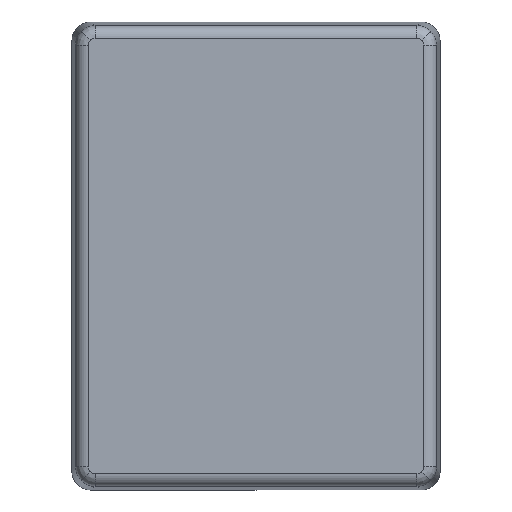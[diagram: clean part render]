
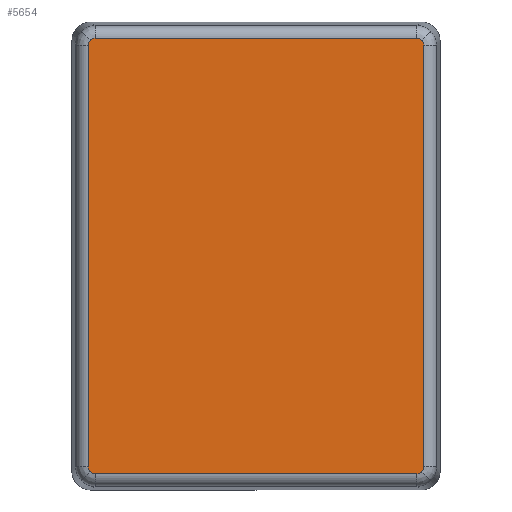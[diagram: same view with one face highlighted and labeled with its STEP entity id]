
A CAD part, front view. The second image highlights one B-rep face of the part: STEP entity #5654.
In plain terms, the highlighted planar face has unit normal (0, -1, 0).
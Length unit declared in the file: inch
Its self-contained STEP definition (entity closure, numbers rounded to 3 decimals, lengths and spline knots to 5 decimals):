
#225 = CARTESIAN_POINT ( 'NONE',  ( 1.66146, -1.184, -2.16146 ) ) ;
#285 = CARTESIAN_POINT ( 'NONE',  ( 1.68194, -1.184, -2.11199 ) ) ;
#286 = CARTESIAN_POINT ( 'NONE',  ( 1.67475, -1.184, -2.14817 ) ) ;
#287 = CARTESIAN_POINT ( 'NONE',  ( 1.68194, -1.184, -2.13079 ) ) ;
#430 = EDGE_CURVE ( 'NONE', #4210, #4229, #5224, .T. ) ;
#463 = EDGE_CURVE ( 'NONE', #4209, #4149, #1178, .T. ) ;
#496 = EDGE_CURVE ( 'NONE', #4165, #4223, #1207, .T. ) ;
#497 = EDGE_CURVE ( 'NONE', #4149, #4153, #5244, .T. ) ;
#502 = EDGE_CURVE ( 'NONE', #4153, #5866, #5225, .T. ) ;
#527 = EDGE_CURVE ( 'NONE', #4223, #4194, #5230, .T. ) ;
#537 = EDGE_CURVE ( 'NONE', #4230, #4165, #5226, .T. ) ;
#541 = EDGE_CURVE ( 'NONE', #4194, #4209, #5250, .T. ) ;
#563 = EDGE_CURVE ( 'NONE', #5847, #4210, #5245, .T. ) ;
#565 = EDGE_CURVE ( 'NONE', #5866, #5847, #1283, .T. ) ;
#566 = EDGE_CURVE ( 'NONE', #5877, #4230, #5221, .T. ) ;
#568 = EDGE_CURVE ( 'NONE', #4229, #5877, #1288, .T. ) ;
#1053 = AXIS2_PLACEMENT_3D ( 'NONE', #2634, #2640, #2641 ) ;
#1178 = LINE ( 'NONE', #1387, #1179 ) ;
#1179 = VECTOR ( 'NONE', #1388, 39.37008 ) ;
#1194 = VECTOR ( 'NONE', #1509, 39.37008 ) ;
#1207 = LINE ( 'NONE', #1508, #1194 ) ;
#1283 = LINE ( 'NONE', #1751, #1284 ) ;
#1284 = VECTOR ( 'NONE', #1752, 39.37008 ) ;
#1288 = LINE ( 'NONE', #1759, #1289 ) ;
#1289 = VECTOR ( 'NONE', #1760, 39.37008 ) ;
#1387 = CARTESIAN_POINT ( 'NONE',  ( -1.68194, -1.184, -2.10777 ) ) ;
#1388 = DIRECTION ( 'NONE',  ( 0., 0., -1. ) ) ;
#1505 = CARTESIAN_POINT ( 'NONE',  ( -1.68194, -1.184, -2.11199 ) ) ;
#1508 = CARTESIAN_POINT ( 'NONE',  ( -1.60777, -1.184, 2.18194 ) ) ;
#1509 = DIRECTION ( 'NONE',  ( -1., 0., 0. ) ) ;
#1510 = CARTESIAN_POINT ( 'NONE',  ( -1.68194, -1.184, -2.13079 ) ) ;
#1511 = CARTESIAN_POINT ( 'NONE',  ( -1.67475, -1.184, -2.14817 ) ) ;
#1512 = CARTESIAN_POINT ( 'NONE',  ( -1.66146, -1.184, -2.16146 ) ) ;
#1532 = CARTESIAN_POINT ( 'NONE',  ( -1.66146, -1.184, -2.16146 ) ) ;
#1539 = CARTESIAN_POINT ( 'NONE',  ( -1.64817, -1.184, -2.17475 ) ) ;
#1540 = CARTESIAN_POINT ( 'NONE',  ( -1.63079, -1.184, -2.18194 ) ) ;
#1541 = CARTESIAN_POINT ( 'NONE',  ( -1.61199, -1.184, -2.18194 ) ) ;
#1613 = CARTESIAN_POINT ( 'NONE',  ( -1.61199, -1.184, 2.18194 ) ) ;
#1639 = CARTESIAN_POINT ( 'NONE',  ( -1.63079, -1.184, 2.18194 ) ) ;
#1640 = CARTESIAN_POINT ( 'NONE',  ( -1.64817, -1.184, 2.17475 ) ) ;
#1641 = CARTESIAN_POINT ( 'NONE',  ( -1.66146, -1.184, 2.16146 ) ) ;
#1651 = CARTESIAN_POINT ( 'NONE',  ( 1.66146, -1.184, 2.16146 ) ) ;
#1668 = CARTESIAN_POINT ( 'NONE',  ( 1.64817, -1.184, 2.17475 ) ) ;
#1669 = CARTESIAN_POINT ( 'NONE',  ( 1.63079, -1.184, 2.18194 ) ) ;
#1670 = CARTESIAN_POINT ( 'NONE',  ( 1.61199, -1.184, 2.18194 ) ) ;
#1679 = CARTESIAN_POINT ( 'NONE',  ( -1.66146, -1.184, 2.16146 ) ) ;
#1683 = CARTESIAN_POINT ( 'NONE',  ( -1.67475, -1.184, 2.14817 ) ) ;
#1684 = CARTESIAN_POINT ( 'NONE',  ( -1.68194, -1.184, 2.13079 ) ) ;
#1685 = CARTESIAN_POINT ( 'NONE',  ( -1.68194, -1.184, 2.11199 ) ) ;
#1731 = CARTESIAN_POINT ( 'NONE',  ( 1.68194, -1.184, 2.11199 ) ) ;
#1736 = CARTESIAN_POINT ( 'NONE',  ( 1.61199, -1.184, -2.18194 ) ) ;
#1746 = CARTESIAN_POINT ( 'NONE',  ( 1.63079, -1.184, -2.18194 ) ) ;
#1747 = CARTESIAN_POINT ( 'NONE',  ( 1.64817, -1.184, -2.17475 ) ) ;
#1748 = CARTESIAN_POINT ( 'NONE',  ( 1.66146, -1.184, -2.16146 ) ) ;
#1751 = CARTESIAN_POINT ( 'NONE',  ( 1.60777, -1.184, -2.18194 ) ) ;
#1752 = DIRECTION ( 'NONE',  ( 1., 0., 0. ) ) ;
#1754 = CARTESIAN_POINT ( 'NONE',  ( 1.68194, -1.184, 2.13079 ) ) ;
#1755 = CARTESIAN_POINT ( 'NONE',  ( 1.67475, -1.184, 2.14817 ) ) ;
#1756 = CARTESIAN_POINT ( 'NONE',  ( 1.66146, -1.184, 2.16146 ) ) ;
#1759 = CARTESIAN_POINT ( 'NONE',  ( 1.68194, -1.184, 2.10777 ) ) ;
#1760 = DIRECTION ( 'NONE',  ( 0., 0., 1. ) ) ;
#1949 = CARTESIAN_POINT ( 'NONE',  ( -1.68194, -1.184, -2.11199 ) ) ;
#1951 = CARTESIAN_POINT ( 'NONE',  ( -1.66146, -1.184, -2.16146 ) ) ;
#1962 = CARTESIAN_POINT ( 'NONE',  ( 1.61199, -1.184, 2.18194 ) ) ;
#1976 = CARTESIAN_POINT ( 'NONE',  ( -1.66146, -1.184, 2.16146 ) ) ;
#1990 = CARTESIAN_POINT ( 'NONE',  ( -1.68194, -1.184, 2.11199 ) ) ;
#1991 = CARTESIAN_POINT ( 'NONE',  ( 1.66146, -1.184, -2.16146 ) ) ;
#2004 = CARTESIAN_POINT ( 'NONE',  ( -1.61199, -1.184, 2.18194 ) ) ;
#2010 = CARTESIAN_POINT ( 'NONE',  ( 1.68194, -1.184, -2.11199 ) ) ;
#2011 = CARTESIAN_POINT ( 'NONE',  ( 1.66146, -1.184, 2.16146 ) ) ;
#2405 = FACE_OUTER_BOUND ( 'NONE', #5329, .T. ) ;
#2631 = PLANE ( 'NONE',  #1053 ) ;
#2634 = CARTESIAN_POINT ( 'NONE',  ( 1.844, -1.184, -2.344 ) ) ;
#2640 = DIRECTION ( 'NONE',  ( 0., 1., 0. ) ) ;
#2641 = DIRECTION ( 'NONE',  ( 0., 0., 1. ) ) ;
#3948 = CARTESIAN_POINT ( 'NONE',  ( 1.61199, -1.184, -2.18194 ) ) ;
#3965 = CARTESIAN_POINT ( 'NONE',  ( -1.61199, -1.184, -2.18194 ) ) ;
#3976 = CARTESIAN_POINT ( 'NONE',  ( 1.68194, -1.184, 2.11199 ) ) ;
#4149 = VERTEX_POINT ( 'NONE', #1949 ) ;
#4153 = VERTEX_POINT ( 'NONE', #1951 ) ;
#4165 = VERTEX_POINT ( 'NONE', #1962 ) ;
#4194 = VERTEX_POINT ( 'NONE', #1976 ) ;
#4209 = VERTEX_POINT ( 'NONE', #1990 ) ;
#4210 = VERTEX_POINT ( 'NONE', #1991 ) ;
#4223 = VERTEX_POINT ( 'NONE', #2004 ) ;
#4229 = VERTEX_POINT ( 'NONE', #2010 ) ;
#4230 = VERTEX_POINT ( 'NONE', #2011 ) ;
#4259 = ORIENTED_EDGE ( 'NONE', *, *, #565, .T. ) ;
#4261 = ORIENTED_EDGE ( 'NONE', *, *, #537, .T. ) ;
#4264 = ORIENTED_EDGE ( 'NONE', *, *, #497, .T. ) ;
#4267 = ORIENTED_EDGE ( 'NONE', *, *, #563, .T. ) ;
#4276 = ORIENTED_EDGE ( 'NONE', *, *, #566, .T. ) ;
#4282 = ORIENTED_EDGE ( 'NONE', *, *, #568, .T. ) ;
#4283 = ORIENTED_EDGE ( 'NONE', *, *, #430, .T. ) ;
#4289 = ORIENTED_EDGE ( 'NONE', *, *, #502, .T. ) ;
#4290 = ORIENTED_EDGE ( 'NONE', *, *, #527, .T. ) ;
#4299 = ORIENTED_EDGE ( 'NONE', *, *, #496, .T. ) ;
#4304 = ORIENTED_EDGE ( 'NONE', *, *, #541, .T. ) ;
#4316 = ORIENTED_EDGE ( 'NONE', *, *, #463, .T. ) ;
#5221 =( BOUNDED_CURVE ( )  B_SPLINE_CURVE ( 3, ( #1731, #1754, #1755, #1756 ),
 .UNSPECIFIED., .F., .F. ) 
 B_SPLINE_CURVE_WITH_KNOTS ( ( 4, 4 ),
 ( 5.4984, 6.28319 ),
 .UNSPECIFIED. ) 
 CURVE ( )  GEOMETRIC_REPRESENTATION_ITEM ( )  RATIONAL_B_SPLINE_CURVE ( ( 1., 0.949, 0.949, 1. ) ) 
 REPRESENTATION_ITEM ( '' )  );
#5224 =( BOUNDED_CURVE ( )  B_SPLINE_CURVE ( 3, ( #225, #286, #287, #285 ),
 .UNSPECIFIED., .F., .T. ) 
 B_SPLINE_CURVE_WITH_KNOTS ( ( 4, 4 ),
 ( 0., 0.78479 ),
 .UNSPECIFIED. ) 
 CURVE ( )  GEOMETRIC_REPRESENTATION_ITEM ( )  RATIONAL_B_SPLINE_CURVE ( ( 1., 0.949, 0.949, 1. ) ) 
 REPRESENTATION_ITEM ( '' )  );
#5225 =( BOUNDED_CURVE ( )  B_SPLINE_CURVE ( 3, ( #1532, #1539, #1540, #1541 ),
 .UNSPECIFIED., .F., .T. ) 
 B_SPLINE_CURVE_WITH_KNOTS ( ( 4, 4 ),
 ( 0., 0.78479 ),
 .UNSPECIFIED. ) 
 CURVE ( )  GEOMETRIC_REPRESENTATION_ITEM ( )  RATIONAL_B_SPLINE_CURVE ( ( 1., 0.949, 0.949, 1. ) ) 
 REPRESENTATION_ITEM ( '' )  );
#5226 =( BOUNDED_CURVE ( )  B_SPLINE_CURVE ( 3, ( #1651, #1668, #1669, #1670 ),
 .UNSPECIFIED., .F., .F. ) 
 B_SPLINE_CURVE_WITH_KNOTS ( ( 4, 4 ),
 ( 0., 0.78479 ),
 .UNSPECIFIED. ) 
 CURVE ( )  GEOMETRIC_REPRESENTATION_ITEM ( )  RATIONAL_B_SPLINE_CURVE ( ( 1., 0.949, 0.949, 1. ) ) 
 REPRESENTATION_ITEM ( '' )  );
#5230 =( BOUNDED_CURVE ( )  B_SPLINE_CURVE ( 3, ( #1613, #1639, #1640, #1641 ),
 .UNSPECIFIED., .F., .T. ) 
 B_SPLINE_CURVE_WITH_KNOTS ( ( 4, 4 ),
 ( 5.4984, 6.28319 ),
 .UNSPECIFIED. ) 
 CURVE ( )  GEOMETRIC_REPRESENTATION_ITEM ( )  RATIONAL_B_SPLINE_CURVE ( ( 1., 0.949, 0.949, 1. ) ) 
 REPRESENTATION_ITEM ( '' )  );
#5244 =( BOUNDED_CURVE ( )  B_SPLINE_CURVE ( 3, ( #1505, #1510, #1511, #1512 ),
 .UNSPECIFIED., .F., .F. ) 
 B_SPLINE_CURVE_WITH_KNOTS ( ( 4, 4 ),
 ( 5.4984, 6.28319 ),
 .UNSPECIFIED. ) 
 CURVE ( )  GEOMETRIC_REPRESENTATION_ITEM ( )  RATIONAL_B_SPLINE_CURVE ( ( 1., 0.949, 0.949, 1. ) ) 
 REPRESENTATION_ITEM ( '' )  );
#5245 =( BOUNDED_CURVE ( )  B_SPLINE_CURVE ( 3, ( #1736, #1746, #1747, #1748 ),
 .UNSPECIFIED., .F., .T. ) 
 B_SPLINE_CURVE_WITH_KNOTS ( ( 4, 4 ),
 ( 5.4984, 6.28319 ),
 .UNSPECIFIED. ) 
 CURVE ( )  GEOMETRIC_REPRESENTATION_ITEM ( )  RATIONAL_B_SPLINE_CURVE ( ( 1., 0.949, 0.949, 1. ) ) 
 REPRESENTATION_ITEM ( '' )  );
#5250 =( BOUNDED_CURVE ( )  B_SPLINE_CURVE ( 3, ( #1679, #1683, #1684, #1685 ),
 .UNSPECIFIED., .F., .F. ) 
 B_SPLINE_CURVE_WITH_KNOTS ( ( 4, 4 ),
 ( 0., 0.78479 ),
 .UNSPECIFIED. ) 
 CURVE ( )  GEOMETRIC_REPRESENTATION_ITEM ( )  RATIONAL_B_SPLINE_CURVE ( ( 1., 0.949, 0.949, 1. ) ) 
 REPRESENTATION_ITEM ( '' )  );
#5329 = EDGE_LOOP ( 'NONE', ( #4282, #4276, #4261, #4299, #4290, #4304, #4316, #4264, #4289, #4259, #4267, #4283 ) ) ;
#5654 = ADVANCED_FACE ( 'NONE', ( #2405 ), #2631, .F. ) ;
#5847 = VERTEX_POINT ( 'NONE', #3948 ) ;
#5866 = VERTEX_POINT ( 'NONE', #3965 ) ;
#5877 = VERTEX_POINT ( 'NONE', #3976 ) ;
